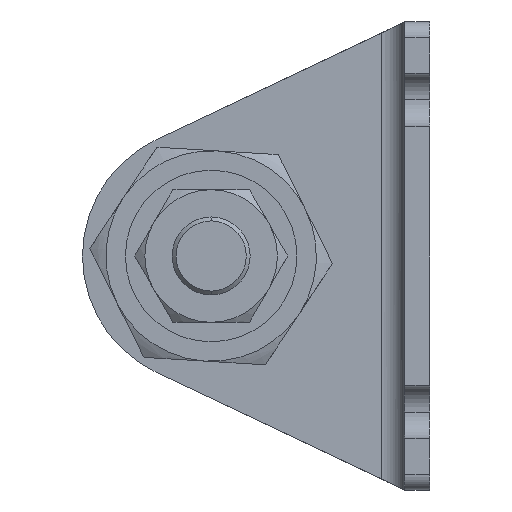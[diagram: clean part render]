
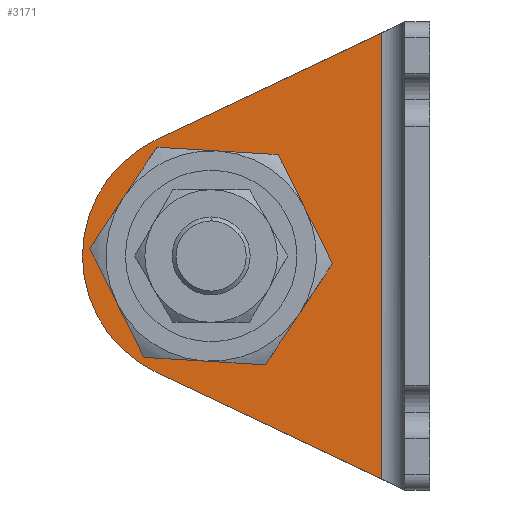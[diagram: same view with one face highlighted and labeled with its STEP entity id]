
A CAD part, left-side view. The second image highlights one B-rep face of the part: STEP entity #3171.
In plain terms, the highlighted planar face has unit normal (-1, 0, 0) as drawn and (1, 0, 0) by its records, which use the part's own axes.
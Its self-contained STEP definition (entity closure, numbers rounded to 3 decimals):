
#86 = CIRCLE ( 'NONE', #1008, 16.5 ) ;
#161 = CARTESIAN_POINT ( 'NONE',  ( 3.2, 28., -30. ) ) ;
#164 = CARTESIAN_POINT ( 'NONE',  ( 3.2, 6.2, -58.579 ) ) ;
#187 = EDGE_CURVE ( 'NONE', #891, #2026, #86, .T. ) ;
#275 = CARTESIAN_POINT ( 'NONE',  ( 3.2, 28., -30. ) ) ;
#283 = DIRECTION ( 'NONE',  ( 1., 0., 0. ) ) ;
#555 = CARTESIAN_POINT ( 'NONE',  ( 3.2, 35.062, -44.913 ) ) ;
#668 = CIRCLE ( 'NONE', #1182, 11.5 ) ;
#726 = EDGE_CURVE ( 'NONE', #2844, #1403, #3642, .T. ) ;
#891 = VERTEX_POINT ( 'NONE', #2444 ) ;
#968 = PLANE ( 'NONE',  #3531 ) ;
#978 = DIRECTION ( 'NONE',  ( 0., 0.904, 0.428 ) ) ;
#1008 = AXIS2_PLACEMENT_3D ( 'NONE', #3490, #283, #1733 ) ;
#1011 = DIRECTION ( 'NONE',  ( 1., 0., 0. ) ) ;
#1013 = DIRECTION ( 'NONE',  ( 1., 0., 0. ) ) ;
#1045 = DIRECTION ( 'NONE',  ( 1., 0., 0. ) ) ;
#1103 = CIRCLE ( 'NONE', #3901, 16.5 ) ;
#1126 = CIRCLE ( 'NONE', #2080, 11.5 ) ;
#1182 = AXIS2_PLACEMENT_3D ( 'NONE', #275, #1045, #2631 ) ;
#1192 = VERTEX_POINT ( 'NONE', #2178 ) ;
#1209 = EDGE_CURVE ( 'NONE', #3729, #1192, #1126, .T. ) ;
#1403 = VERTEX_POINT ( 'NONE', #555 ) ;
#1426 = DIRECTION ( 'NONE',  ( 0., 0., -1. ) ) ;
#1442 = ORIENTED_EDGE ( 'NONE', *, *, #2516, .F. ) ;
#1538 = ORIENTED_EDGE ( 'NONE', *, *, #3688, .F. ) ;
#1546 = VECTOR ( 'NONE', #1426, 1000. ) ;
#1722 = ORIENTED_EDGE ( 'NONE', *, *, #187, .T. ) ;
#1733 = DIRECTION ( 'NONE',  ( 0., 1., 0. ) ) ;
#1863 = DIRECTION ( 'NONE',  ( 1., 0., 0. ) ) ;
#1943 = EDGE_LOOP ( 'NONE', ( #1538, #4150, #3360, #2220, #1722 ) ) ;
#2026 = VERTEX_POINT ( 'NONE', #3099 ) ;
#2080 = AXIS2_PLACEMENT_3D ( 'NONE', #2533, #1011, #3525 ) ;
#2178 = CARTESIAN_POINT ( 'NONE',  ( 3.2, 16.5, -30. ) ) ;
#2220 = ORIENTED_EDGE ( 'NONE', *, *, #3722, .T. ) ;
#2362 = VECTOR ( 'NONE', #2666, 1000. ) ;
#2444 = CARTESIAN_POINT ( 'NONE',  ( 3.2, 44.5, -30. ) ) ;
#2516 = EDGE_CURVE ( 'NONE', #1192, #3729, #668, .T. ) ;
#2533 = CARTESIAN_POINT ( 'NONE',  ( 3.2, 28., -30. ) ) ;
#2540 = EDGE_CURVE ( 'NONE', #3012, #2844, #3529, .T. ) ;
#2631 = DIRECTION ( 'NONE',  ( 0., 1., 0. ) ) ;
#2666 = DIRECTION ( 'NONE',  ( 0., 0.904, -0.428 ) ) ;
#2738 = CARTESIAN_POINT ( 'NONE',  ( 3.2, 39.5, -30. ) ) ;
#2844 = VERTEX_POINT ( 'NONE', #164 ) ;
#2924 = DIRECTION ( 'NONE',  ( 0., 1., 0. ) ) ;
#2941 = EDGE_LOOP ( 'NONE', ( #4086, #1442 ) ) ;
#3002 = VECTOR ( 'NONE', #978, 1000. ) ;
#3012 = VERTEX_POINT ( 'NONE', #4273 ) ;
#3099 = CARTESIAN_POINT ( 'NONE',  ( 3.2, 35.062, -15.087 ) ) ;
#3171 = ADVANCED_FACE ( 'NONE', ( #3846, #3928 ), #968, .T. ) ;
#3208 = CARTESIAN_POINT ( 'NONE',  ( 3.2, 3.2, -60. ) ) ;
#3360 = ORIENTED_EDGE ( 'NONE', *, *, #726, .T. ) ;
#3377 = LINE ( 'NONE', #3671, #2362 ) ;
#3490 = CARTESIAN_POINT ( 'NONE',  ( 3.2, 28., -30. ) ) ;
#3525 = DIRECTION ( 'NONE',  ( 0., 1., 0. ) ) ;
#3529 = LINE ( 'NONE', #4124, #1546 ) ;
#3531 = AXIS2_PLACEMENT_3D ( 'NONE', #3208, #1863, #2924 ) ;
#3642 = LINE ( 'NONE', #4219, #3002 ) ;
#3671 = CARTESIAN_POINT ( 'NONE',  ( 3.2, 26.408, -10.99 ) ) ;
#3688 = EDGE_CURVE ( 'NONE', #3012, #2026, #3377, .T. ) ;
#3722 = EDGE_CURVE ( 'NONE', #1403, #891, #1103, .T. ) ;
#3729 = VERTEX_POINT ( 'NONE', #2738 ) ;
#3846 = FACE_OUTER_BOUND ( 'NONE', #1943, .T. ) ;
#3890 = DIRECTION ( 'NONE',  ( 0., 1., 0. ) ) ;
#3901 = AXIS2_PLACEMENT_3D ( 'NONE', #161, #1013, #3890 ) ;
#3928 = FACE_BOUND ( 'NONE', #2941, .T. ) ;
#4086 = ORIENTED_EDGE ( 'NONE', *, *, #1209, .F. ) ;
#4124 = CARTESIAN_POINT ( 'NONE',  ( 3.2, 6.2, -60. ) ) ;
#4150 = ORIENTED_EDGE ( 'NONE', *, *, #2540, .T. ) ;
#4219 = CARTESIAN_POINT ( 'NONE',  ( 3.2, 3.2, -60. ) ) ;
#4273 = CARTESIAN_POINT ( 'NONE',  ( 3.2, 6.2, -1.421 ) ) ;
